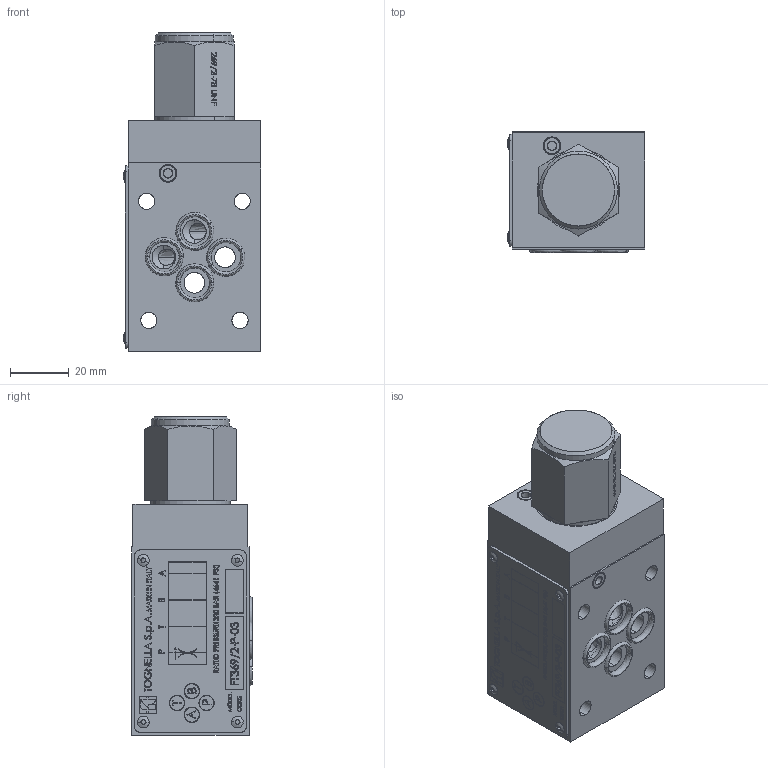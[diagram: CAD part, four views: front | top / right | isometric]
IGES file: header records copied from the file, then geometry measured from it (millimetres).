
Start section: SolidWorks IGES file using analytic representation for surfaces
Global section: file name: C:\Users\pc-te25\Desktop\369-2-P-03.IGS; native system: SolidWorks 2018; preprocessor: SolidWorks 2018; author: pc-te25; date: 191203.143054; units: millimetre
Bounding box: 46.66 x 41.12 x 108.3 mm (x, y, z)
Surface area: 29767.7 mm2 (no closed solid volume)
Topology: 0 solids, 0 shells, 782 faces, 13799 edges, 13797 vertices
Faces by surface type: bspline 653, revolution 129
